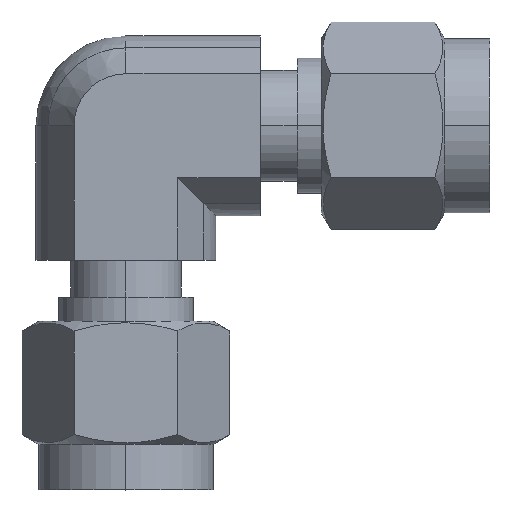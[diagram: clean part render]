
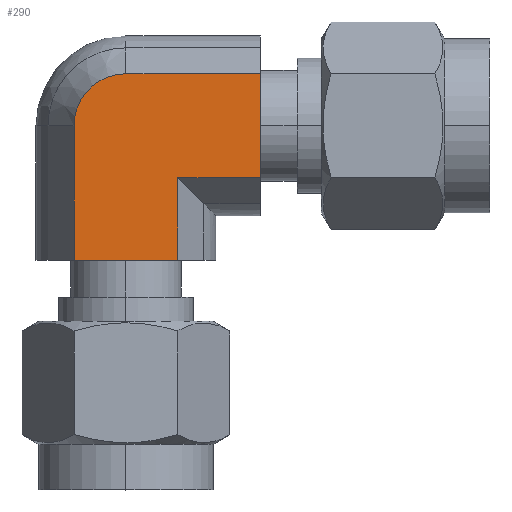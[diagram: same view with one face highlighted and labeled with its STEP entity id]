
A CAD part, top view. The second image highlights one B-rep face of the part: STEP entity #290.
In plain terms, the highlighted planar face has unit normal (0, 0, 1).
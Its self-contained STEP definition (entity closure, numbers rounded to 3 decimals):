
#77 = VERTEX_POINT ( 'NONE', #695 ) ;
#78 = ORIENTED_EDGE ( 'NONE', *, *, #155, .F. ) ;
#122 = ORIENTED_EDGE ( 'NONE', *, *, #123, .F. ) ;
#123 = EDGE_CURVE ( 'NONE', #77, #124, #936, .T. ) ;
#124 = VERTEX_POINT ( 'NONE', #870 ) ;
#155 = EDGE_CURVE ( 'NONE', #235, #77, #852, .T. ) ;
#156 = ORIENTED_EDGE ( 'NONE', *, *, #236, .F. ) ;
#235 = VERTEX_POINT ( 'NONE', #1118 ) ;
#236 = EDGE_CURVE ( 'NONE', #662, #235, #1117, .T. ) ;
#290 = ADVANCED_FACE ( 'NONE', ( #1283 ), #1282, .F. ) ;
#291 = EDGE_LOOP ( 'NONE', ( #292, #293, #296, #299, #122, #78, #156 ) ) ;
#292 = ORIENTED_EDGE ( 'NONE', *, *, #661, .T. ) ;
#293 = ORIENTED_EDGE ( 'NONE', *, *, #294, .F. ) ;
#294 = EDGE_CURVE ( 'NONE', #295, #632, #1277, .T. ) ;
#295 = VERTEX_POINT ( 'NONE', #1273 ) ;
#296 = ORIENTED_EDGE ( 'NONE', *, *, #297, .F. ) ;
#297 = EDGE_CURVE ( 'NONE', #298, #295, #1272, .T. ) ;
#298 = VERTEX_POINT ( 'NONE', #1268 ) ;
#299 = ORIENTED_EDGE ( 'NONE', *, *, #300, .T. ) ;
#300 = EDGE_CURVE ( 'NONE', #298, #124, #1267, .T. ) ;
#632 = VERTEX_POINT ( 'NONE', #2020 ) ;
#661 = EDGE_CURVE ( 'NONE', #662, #632, #1859, .T. ) ;
#662 = VERTEX_POINT ( 'NONE', #1855 ) ;
#695 = CARTESIAN_POINT ( 'NONE',  ( -3.666, 0., 6.35 ) ) ;
#849 = DIRECTION ( 'NONE',  ( 0., 1., 0. ) ) ;
#850 = VECTOR ( 'NONE', #849, 1000. ) ;
#851 = CARTESIAN_POINT ( 'NONE',  ( -3.666, -9.5, 6.35 ) ) ;
#852 = LINE ( 'NONE', #851, #850 ) ;
#870 = CARTESIAN_POINT ( 'NONE',  ( 0., 3.666, 6.35 ) ) ;
#871 = DIRECTION ( 'NONE',  ( 0., 1., 0. ) ) ;
#872 = DIRECTION ( 'NONE',  ( 0., 0., -1. ) ) ;
#873 = CARTESIAN_POINT ( 'NONE',  ( 0., 0., 6.35 ) ) ;
#874 = AXIS2_PLACEMENT_3D ( 'NONE', #873, #872, #871 ) ;
#936 = CIRCLE ( 'NONE', #874, 3.666 ) ;
#1115 = VECTOR ( 'NONE', #1142, 1000. ) ;
#1116 = CARTESIAN_POINT ( 'NONE',  ( 3.666, -9.5, 6.35 ) ) ;
#1117 = LINE ( 'NONE', #1116, #1115 ) ;
#1118 = CARTESIAN_POINT ( 'NONE',  ( -3.666, -9.5, 6.35 ) ) ;
#1142 = DIRECTION ( 'NONE',  ( -1., 0., 0. ) ) ;
#1235 = DIRECTION ( 'NONE',  ( -1., 0., 0. ) ) ;
#1236 = VECTOR ( 'NONE', #1235, 1000. ) ;
#1266 = CARTESIAN_POINT ( 'NONE',  ( 9.5, 3.666, 6.35 ) ) ;
#1267 = LINE ( 'NONE', #1266, #1236 ) ;
#1268 = CARTESIAN_POINT ( 'NONE',  ( 9.5, 3.666, 6.35 ) ) ;
#1269 = DIRECTION ( 'NONE',  ( 0., -1., 0. ) ) ;
#1270 = VECTOR ( 'NONE', #1269, 1000. ) ;
#1271 = CARTESIAN_POINT ( 'NONE',  ( 9.5, 3.666, 6.35 ) ) ;
#1272 = LINE ( 'NONE', #1271, #1270 ) ;
#1273 = CARTESIAN_POINT ( 'NONE',  ( 9.5, -3.666, 6.35 ) ) ;
#1274 = DIRECTION ( 'NONE',  ( -1., 0., 0. ) ) ;
#1275 = VECTOR ( 'NONE', #1274, 1000. ) ;
#1276 = CARTESIAN_POINT ( 'NONE',  ( 9.5, -3.666, 6.35 ) ) ;
#1277 = LINE ( 'NONE', #1276, #1275 ) ;
#1278 = DIRECTION ( 'NONE',  ( 1., 0., 0. ) ) ;
#1279 = DIRECTION ( 'NONE',  ( 0., 0., -1. ) ) ;
#1280 = AXIS2_PLACEMENT_3D ( 'NONE', #1281, #1279, #1278 ) ;
#1281 = CARTESIAN_POINT ( 'NONE',  ( 3.666, -9.5, 6.35 ) ) ;
#1282 = PLANE ( 'NONE',  #1280 ) ;
#1283 = FACE_OUTER_BOUND ( 'NONE', #291, .T. ) ;
#1855 = CARTESIAN_POINT ( 'NONE',  ( 3.666, -9.5, 6.35 ) ) ;
#1856 = DIRECTION ( 'NONE',  ( 0., 1., 0. ) ) ;
#1857 = VECTOR ( 'NONE', #1856, 1000. ) ;
#1858 = CARTESIAN_POINT ( 'NONE',  ( 3.666, -9.5, 6.35 ) ) ;
#1859 = LINE ( 'NONE', #1858, #1857 ) ;
#2020 = CARTESIAN_POINT ( 'NONE',  ( 3.666, -3.666, 6.35 ) ) ;
